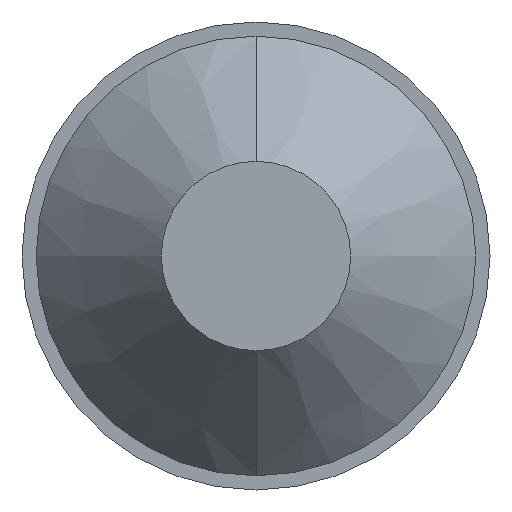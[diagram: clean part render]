
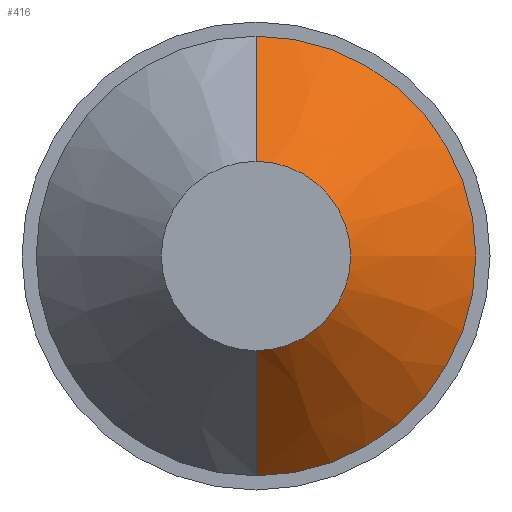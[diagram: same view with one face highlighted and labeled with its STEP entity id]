
A CAD part, front view. The second image highlights one B-rep face of the part: STEP entity #416.
In plain terms, the highlighted conical face has half-angle 41.422 degrees and reference radius 6.677 mm.
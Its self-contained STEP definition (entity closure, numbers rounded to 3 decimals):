
#2 = CARTESIAN_POINT ( 'NONE',  ( 0., 0., 6.677 ) ) ;
#8 = DIRECTION ( 'NONE',  ( 0., 0.75, 0.662 ) ) ;
#10 = CARTESIAN_POINT ( 'NONE',  ( 0., 0., 0. ) ) ;
#11 = DIRECTION ( 'NONE',  ( 0., 1., 0. ) ) ;
#12 = DIRECTION ( 'NONE',  ( 0., 0., 1. ) ) ;
#13 = CARTESIAN_POINT ( 'NONE',  ( 0., 0., -6.677 ) ) ;
#14 = DIRECTION ( 'NONE',  ( 0., 0.75, -0.662 ) ) ;
#19 = CARTESIAN_POINT ( 'NONE',  ( 0., 10., 0. ) ) ;
#20 = DIRECTION ( 'NONE',  ( 0., -1., 0. ) ) ;
#21 = DIRECTION ( 'NONE',  ( 0., 0., -1. ) ) ;
#50 = DIRECTION ( 'NONE',  ( 0., 0., 1. ) ) ;
#55 = DIRECTION ( 'NONE',  ( 0., 1., 0. ) ) ;
#57 = CARTESIAN_POINT ( 'NONE',  ( 0., 0., 0. ) ) ;
#66 = EDGE_LOOP ( 'NONE', ( #100, #101, #99, #102 ) ) ;
#71 = VERTEX_POINT ( 'NONE', #174 ) ;
#77 = VERTEX_POINT ( 'NONE', #171 ) ;
#87 = VERTEX_POINT ( 'NONE', #163 ) ;
#89 = VERTEX_POINT ( 'NONE', #165 ) ;
#99 = ORIENTED_EDGE ( 'NONE', *, *, #277, .T. ) ;
#100 = ORIENTED_EDGE ( 'NONE', *, *, #274, .T. ) ;
#101 = ORIENTED_EDGE ( 'NONE', *, *, #278, .T. ) ;
#102 = ORIENTED_EDGE ( 'NONE', *, *, #272, .F. ) ;
#163 = CARTESIAN_POINT ( 'NONE',  ( 0., 10., 15.5 ) ) ;
#165 = CARTESIAN_POINT ( 'NONE',  ( 0., 0., -6.677 ) ) ;
#171 = CARTESIAN_POINT ( 'NONE',  ( 0., 0., 6.677 ) ) ;
#174 = CARTESIAN_POINT ( 'NONE',  ( 0., 10., -15.5 ) ) ;
#193 = CONICAL_SURFACE ( 'NONE', #221, 6.677, 0.723 ) ;
#221 = AXIS2_PLACEMENT_3D ( 'NONE', #57, #55, #50 ) ;
#232 = AXIS2_PLACEMENT_3D ( 'NONE', #19, #20, #21 ) ;
#234 = AXIS2_PLACEMENT_3D ( 'NONE', #10, #11, #12 ) ;
#272 = EDGE_CURVE ( 'NONE', #77, #87, #477, .T. ) ;
#274 = EDGE_CURVE ( 'NONE', #77, #89, #476, .T. ) ;
#277 = EDGE_CURVE ( 'NONE', #71, #87, #427, .T. ) ;
#278 = EDGE_CURVE ( 'NONE', #89, #71, #426, .T. ) ;
#334 = FACE_OUTER_BOUND ( 'NONE', #66, .T. ) ;
#416 = ADVANCED_FACE ( 'NONE', ( #334 ), #193, .T. ) ;
#426 = LINE ( 'NONE', #13, #431 ) ;
#427 = CIRCLE ( 'NONE', #232, 15.5 ) ;
#431 = VECTOR ( 'NONE', #14, 1000. ) ;
#476 = CIRCLE ( 'NONE', #234, 6.677 ) ;
#477 = LINE ( 'NONE', #2, #484 ) ;
#484 = VECTOR ( 'NONE', #8, 1000. ) ;
